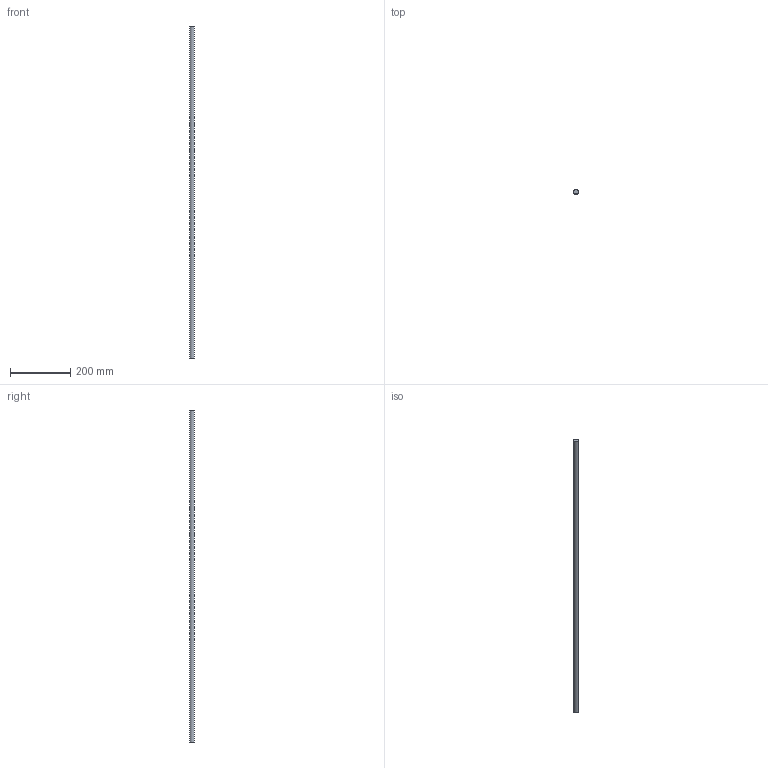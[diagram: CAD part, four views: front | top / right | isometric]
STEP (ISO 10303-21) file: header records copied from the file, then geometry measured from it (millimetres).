
FILE_DESCRIPTION(/* description */ (''),/* implementation_level */ '2;1');
FILE_NAME(/* name */ 'C:\Users\David\Desktop\stepFiles\Profilfuehrung\WF16x1100.stp',/* time_stamp */ '2018-06-24T15:46:55+02:00',/* author */ ('David'),/* organization */ (''),/* preprocessor_version */ 'ST-DEVELOPER v17',/* originating_system */ 'Autodesk Inventor 2019',/* authorisation */ '');
FILE_SCHEMA (('AUTOMOTIVE_DESIGN { 1 0 10303 214 3 1 1 }'));
Length unit declared in the file: millimetre
Products named in the file (1): Wellenfuehrung
Bounding box: 16 x 16 x 1100 mm (x, y, z)
Volume: 221168.1 mm3; surface area: 55694.2 mm2
Topology: 1 solids, 1 shells, 3 faces, 3 edges, 2 vertices
Faces by surface type: plane 2, cylinder 1
Full cylindrical faces by diameter (mm): 16 x1
Entity records: 98 total; most frequent: DIRECTION 13, CARTESIAN_POINT 9, ORIENTED_EDGE 6, AXIS2_PLACEMENT_3D 6, FACE_OUTER_BOUND 3, EDGE_LOOP 3, EDGE_CURVE 3, ADVANCED_FACE 3
